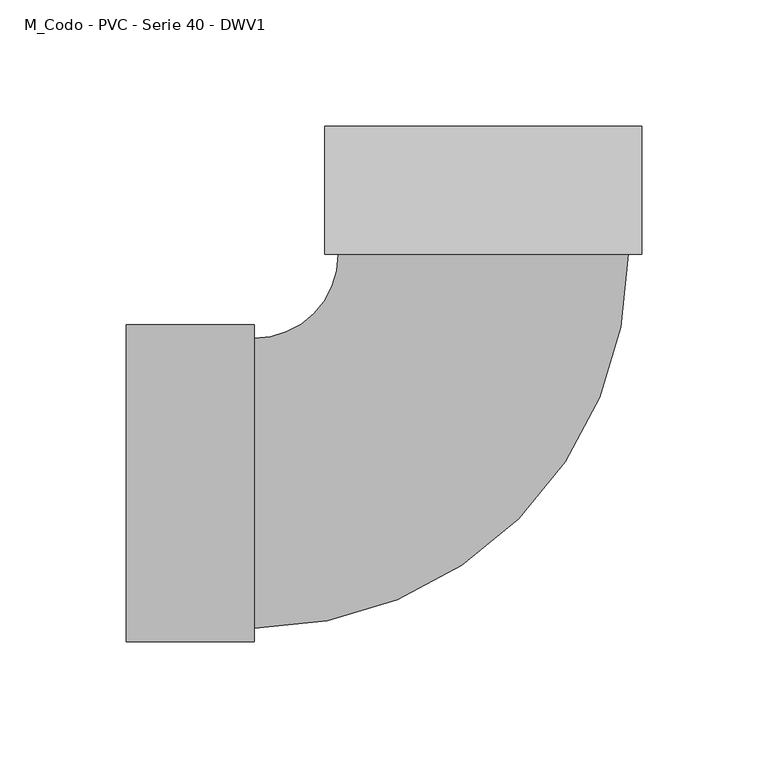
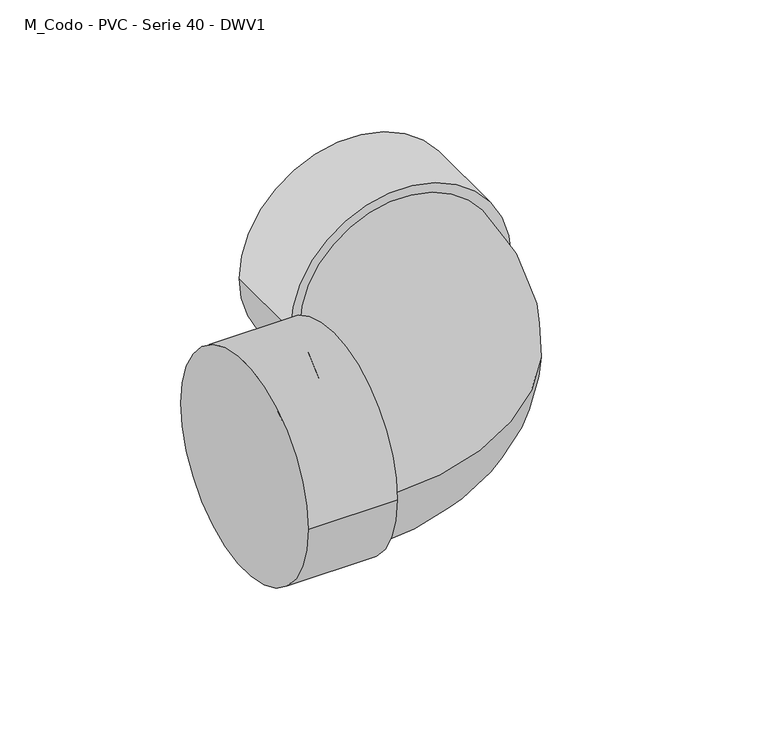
"""IFC4 building model written with IfcOpenShell, lengths in millimetres: pipe fitting geometry, M_Codo - PVC - Serie 40 - DWV1 : Estándar 2."""

from ifc_helpers import new_model, si_unit, point, frame, origin, place, context, project, spatial, circle_curve, ellipse_curve, trimmed, source, transform, mapped, element, save
from ifc_brep_helpers import plane_surface, cylinder_surface, revolved_surface, advanced_brep


def m_codo_pvc_serie_40_dwv1_f5c0a64d(model_context):
    return source(origin(), model_context, "Body", "AdvancedBrep", [
        advanced_brep(
        [(-141.4700625, -62.8511094, 0.0), (-141.4700625, 62.8511094, 0.0), (-90.6700625, -62.8511094, 0.0), (-90.6700625, 62.8511094, 0.0), (-90.6700625, -57.3960625, 0.0), (-90.6700625, 57.3960625, 0.0), (-57.3960625, 90.6700625, 0.0), (57.3960625, 90.6700625, 0.0), (62.8511094, 90.6700625, 0.0), (-62.8511094, 90.6700625, 0.0), (62.8511094, 141.4700625, 0.0), (-62.8511094, 141.4700625, 0.0)],
        [
            (0, 1, circle_curve(frame((-141.4700625, 0.0, 0.0), z_axis=(-1.0, 0.0, 0.0), x_axis=(0.0, 1.0, 0.0)), 62.8511094)),
            (1, 0, circle_curve(frame((-141.4700625, 0.0, 0.0), z_axis=(-1.0, 0.0, 0.0), x_axis=(0.0, 1.0, 0.0)), 62.8511094)),
            (2, 3, circle_curve(frame((-90.6700625, 0.0, 0.0), z_axis=(1.0, 0.0, 0.0), x_axis=(0.0, 1.0, 0.0)), 62.8511094)),
            (3, 2, circle_curve(frame((-90.6700625, 0.0, 0.0), z_axis=(1.0, 0.0, 0.0), x_axis=(0.0, 1.0, 0.0)), 62.8511094)),
            (4, 5, circle_curve(frame((-90.6700625, 0.0, 0.0), z_axis=(-1.0, 0.0, 0.0), x_axis=(0.0, 1.0, 0.0)), 57.3960625)),
            (5, 4, circle_curve(frame((-90.6700625, 0.0, 0.0), z_axis=(-1.0, 0.0, 0.0), x_axis=(0.0, 1.0, 0.0)), 57.3960625)),
            (0, 2),
            (3, 1),
            (6, 5, circle_curve(frame((-90.6700625, 90.6700625, 0.0), z_axis=(0.0, 0.0, -1.0), x_axis=(0.0, -1.0, 0.0)), 33.274)),
            (4, 7, circle_curve(frame((-90.6700625, 90.6700625, 0.0), z_axis=(0.0, 0.0, 1.0), x_axis=(0.0, -1.0, 0.0)), 148.066125)),
            (7, 6, circle_curve(frame((0.0, 90.6700625, 0.0), z_axis=(0.0, -1.0, 0.0), x_axis=(-1.0, 0.0, 0.0)), 57.3960625)),
            (6, 7, circle_curve(frame((0.0, 90.6700625, 0.0), z_axis=(0.0, -1.0, 0.0), x_axis=(-1.0, 0.0, 0.0)), 57.3960625)),
            (8, 9, circle_curve(frame((0.0, 90.6700625, 0.0), z_axis=(0.0, -1.0, 0.0), x_axis=(-1.0, 0.0, 0.0)), 62.8511094)),
            (9, 8, circle_curve(frame((0.0, 90.6700625, 0.0), z_axis=(0.0, -1.0, 0.0), x_axis=(-1.0, 0.0, 0.0)), 62.8511094)),
            (10, 11, circle_curve(frame((0.0, 141.4700625, 0.0), z_axis=(0.0, 1.0, 0.0), x_axis=(-1.0, 0.0, 0.0)), 62.8511094)),
            (11, 10, circle_curve(frame((0.0, 141.4700625, 0.0), z_axis=(0.0, 1.0, 0.0), x_axis=(-1.0, 0.0, 0.0)), 62.8511094)),
            (8, 10),
            (11, 9),
        ],
        [
            plane_surface(frame((-141.4700625, 0.0, 0.0), z_axis=(-1.0, 0.0, 0.0), x_axis=(0.0, 0.0, 1.0))),
            plane_surface(frame((-90.6700625, 0.0, 0.0), z_axis=(1.0, 0.0, 0.0), x_axis=(0.0, 0.0, 1.0))),
            cylinder_surface(frame((-141.4700625, 0.0, 0.0), z_axis=(-1.0, 0.0, 0.0), x_axis=(0.0, 1.0, 0.0)), 62.8511094),
            revolved_surface(trimmed(ellipse_curve(frame((-90.6700625, 0.0, 0.0), z_axis=(-1.0, 0.0, 0.0), x_axis=(0.0, 1.0, 0.0)), 57.3960625, 57.3960625), [point((-90.6700625, -57.3960625, 0.0))], [point((-90.6700625, 57.3960625, 0.0))], True, "CARTESIAN"), (-90.6700625, 90.6700625, 0.0), (0.0, 0.0, 1.0)),
            revolved_surface(trimmed(ellipse_curve(frame((-90.6700625, 0.0, 0.0), z_axis=(-1.0, 0.0, 0.0), x_axis=(0.0, 1.0, 0.0)), 57.3960625, 57.3960625), [point((-90.6700625, 57.3960625, 0.0))], [point((-90.6700625, -57.3960625, 0.0))], True, "CARTESIAN"), (-90.6700625, 90.6700625, 0.0), (0.0, 0.0, 1.0)),
            plane_surface(frame((0.0, 90.6700625, 0.0), z_axis=(0.0, -1.0, 0.0), x_axis=(0.0, 0.0, 1.0))),
            plane_surface(frame((0.0, 141.4700625, 0.0), z_axis=(0.0, 1.0, 0.0), x_axis=(0.0, 0.0, 1.0))),
            cylinder_surface(frame((0.0, 90.6700625, 0.0), z_axis=(0.0, -1.0, 0.0), x_axis=(-1.0, 0.0, 0.0)), 62.8511094),
        ],
        [
            (0, [[1, 2]]),
            (1, [[3, 4], [5, 6]]),
            (2, [[-1, 7, -4, 8]]),
            (2, [[-2, -8, -3, -7]]),
            (3, [[9, -5, 10, 11]]),
            (4, [[-9, 12, -10, -6]]),
            (5, [[13, 14], [-11, -12]]),
            (6, [[15, 16]]),
            (7, [[-13, 17, -16, 18]]),
            (7, [[-14, -18, -15, -17]]),
        ],
    ),
    ])


if __name__ == "__main__":
    model = new_model("IFC4")
    model_context = context("Model", 3, world=origin())
    ifc_project = project(units=[si_unit("LENGTHUNIT", "METRE", prefix="MILLI")], contexts=[model_context])
    site = spatial("IfcSite", under=ifc_project)
    building = spatial("IfcBuilding", under=site)
    placement = place(None, origin())
    m_codo_pvc_serie_40_dwv1_shape = m_codo_pvc_serie_40_dwv1_f5c0a64d(model_context)
    element("IfcPipeFitting", 1, ObjectType="M_Codo - PVC - Serie 40 - DWV1 : Estándar 2", at=placement, inside=building, context=model_context, shape_type="MappedRepresentation", body=[
        mapped(m_codo_pvc_serie_40_dwv1_shape, transform((0.0, 0.0, 0.0), x_axis=(1.0, 0.0, 0.0), y_axis=(0.0, 1.0, 0.0), z_axis=(0.0, 0.0, 1.0))),
    ])
    save(model, "model.ifc")
